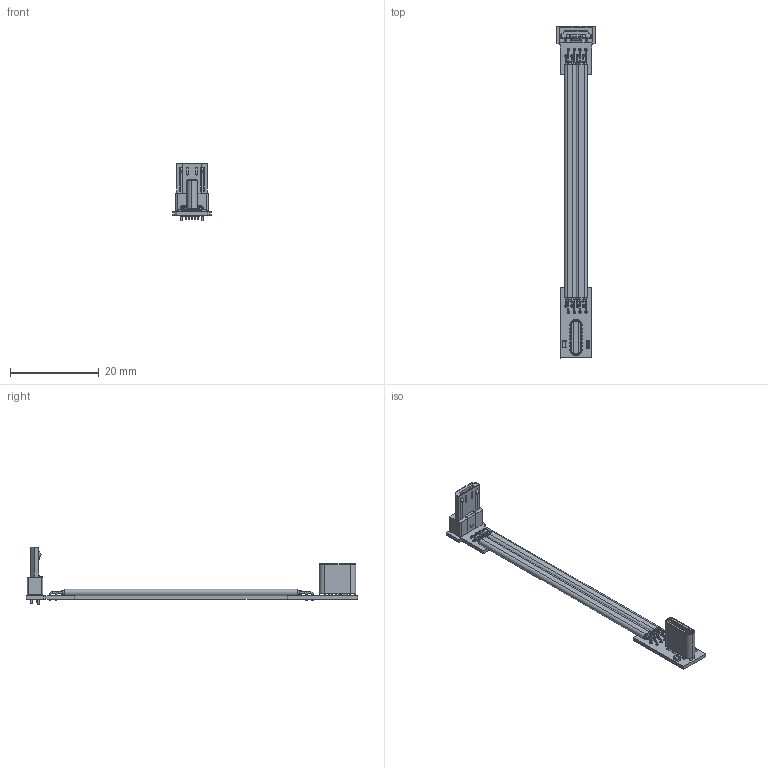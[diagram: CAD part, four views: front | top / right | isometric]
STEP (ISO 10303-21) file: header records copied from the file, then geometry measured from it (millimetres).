
FILE_DESCRIPTION(('Open CASCADE Model'),'2;1');
FILE_NAME('Open CASCADE Shape Model','2022-05-09T05:11:32',('Author'),( 'Open CASCADE'),'Open CASCADE STEP processor 6.8','Open CASCADE 6.8' ,'Unknown');
FILE_SCHEMA(('AUTOMOTIVE_DESIGN { 1 0 10303 214 1 1 1 1 }'));
Length unit declared in the file: millimetre
Products named in the file (74): PCB; Board; Open CASCADE STEP translator 6.8 2.1.1; 12; C0603_060; 0603_RES; Capsule; Encapsulation; TopCover; Designator12; T2D-4_20211026; gDesignator22; usb_2.0_20211221; Free-Models; 8_pin_20211216_(2)
Assembly tree (74 placements, depth 4):
  PCB
    Board
      Open CASCADE STEP translator 6.8 2.1.1
    12
      C0603_060
      C0603_060
      C0603_060
    12
      0603_RES
        Capsule
        Encapsulation  x2
        TopCover
    Designator12
      T2D-4_20211026
      T2D-4_20211026
      T2D-4_20211026
      T2D-4_20211026
      T2D-4_20211026
      T2D-4_20211026
      T2D-4_20211026
      T2D-4_20211026
      T2D-4_20211026
      T2D-4_20211026
      T2D-4_20211026
      T2D-4_20211026
      T2D-4_20211026
      T2D-4_20211026
      T2D-4_20211026
      T2D-4_20211026
      T2D-4_20211026
      T2D-4_20211026
      T2D-4_20211026
      T2D-4_20211026
      T2D-4_20211026
      T2D-4_20211026
      T2D-4_20211026
      T2D-4_20211026
      T2D-4_20211026
      T2D-4_20211026
      T2D-4_20211026
      T2D-4_20211026
      T2D-4_20211026
      T2D-4_20211026
      T2D-4_20211026
      T2D-4_20211026
      T2D-4_20211026
      T2D-4_20211026
      T2D-4_20211026
      T2D-4_20211026
      T2D-4_20211026
      T2D-4_20211026
      T2D-4_20211026
      T2D-4_20211026
      T2D-4_20211026
      T2D-4_20211026
      T2D-4_20211026
      T2D-4_20211026
      T2D-4_20211026
      T2D-4_20211026
      T2D-4_20211026
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Bounding box: 8.61 x 74.93 x 12.88 mm (x, y, z)
Volume: 695.1 mm3; surface area: 4713.9 mm2
Topology: 102 solids, 102 shells, 1193 faces, 2863 edges, 1881 vertices
Faces by surface type: plane 769, cylinder 308, bspline 62, torus 38, sphere 8, extrusion 8
Full cylindrical faces by diameter (mm): 0.55 x16, 0.7 x2
Entity records: 43025 total; most frequent: CARTESIAN_POINT 7376, DIRECTION 5752, ORIENTED_EDGE 5650, EDGE_CURVE 2825, VECTOR 1998, LINE 1990, AXIS2_PLACEMENT_3D 1877, VERTEX_POINT 1861
